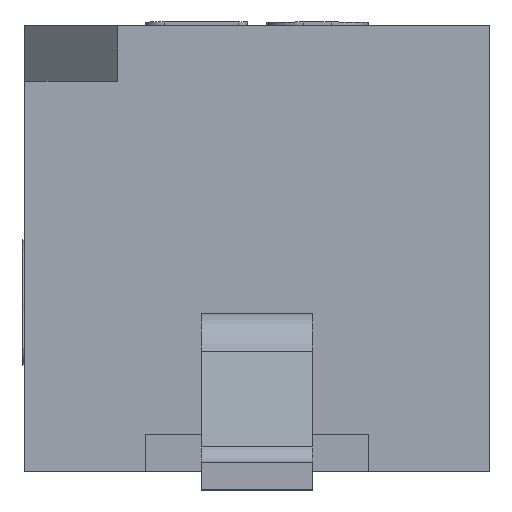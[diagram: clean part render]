
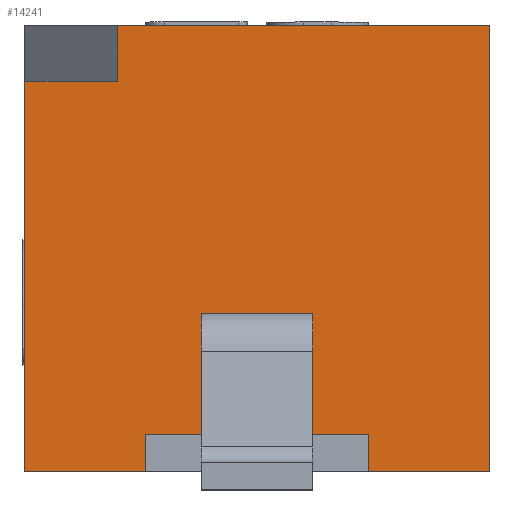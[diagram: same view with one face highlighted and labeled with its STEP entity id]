
A CAD part, left-side view. The second image highlights one B-rep face of the part: STEP entity #14241.
In plain terms, the highlighted planar face has unit normal (-1, 0, 0).
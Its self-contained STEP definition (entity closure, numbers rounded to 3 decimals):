
#236 = DIRECTION ( 'NONE',  ( 0., -1., 0. ) ) ;
#401 = EDGE_LOOP ( 'NONE', ( #8020, #10900, #5453, #619, #7299, #4335, #5161, #1065, #5641, #12709 ) ) ;
#413 = LINE ( 'NONE', #13815, #15129 ) ;
#475 = DIRECTION ( 'NONE',  ( 0., 1., 0. ) ) ;
#501 = ORIENTED_EDGE ( 'NONE', *, *, #15493, .F. ) ;
#542 = EDGE_CURVE ( 'NONE', #8300, #11214, #9500, .T. ) ;
#619 = ORIENTED_EDGE ( 'NONE', *, *, #1209, .F. ) ;
#986 = CARTESIAN_POINT ( 'NONE',  ( -2.7, 0.75, 2.1 ) ) ;
#1065 = ORIENTED_EDGE ( 'NONE', *, *, #6829, .T. ) ;
#1145 = VERTEX_POINT ( 'NONE', #5226 ) ;
#1209 = EDGE_CURVE ( 'NONE', #1145, #8184, #413, .T. ) ;
#1220 = CARTESIAN_POINT ( 'NONE',  ( -2.7, 0.6, 0. ) ) ;
#1313 = VECTOR ( 'NONE', #10813, 1000. ) ;
#1624 = DIRECTION ( 'NONE',  ( 0., -1., 0. ) ) ;
#1700 = PLANE ( 'NONE',  #4358 ) ;
#1844 = VERTEX_POINT ( 'NONE', #5986 ) ;
#2022 = EDGE_CURVE ( 'NONE', #11214, #3777, #10806, .T. ) ;
#2108 = VERTEX_POINT ( 'NONE', #7570 ) ;
#2312 = CARTESIAN_POINT ( 'NONE',  ( -2.7, 0.6, 0.2 ) ) ;
#2616 = VECTOR ( 'NONE', #10878, 1000. ) ;
#2911 = DIRECTION ( 'NONE',  ( 0., 0., -1. ) ) ;
#2935 = CARTESIAN_POINT ( 'NONE',  ( -2.7, -1.25, 2.4 ) ) ;
#3114 = FACE_BOUND ( 'NONE', #13051, .T. ) ;
#3731 = CARTESIAN_POINT ( 'NONE',  ( -2.7, -1.25, 2.4 ) ) ;
#3777 = VERTEX_POINT ( 'NONE', #8939 ) ;
#3877 = DIRECTION ( 'NONE',  ( 0., -1., 0. ) ) ;
#3988 = DIRECTION ( 'NONE',  ( 0., -1., 0. ) ) ;
#4122 = CARTESIAN_POINT ( 'NONE',  ( -2.7, 1.25, 2.4 ) ) ;
#4175 = FACE_OUTER_BOUND ( 'NONE', #401, .T. ) ;
#4335 = ORIENTED_EDGE ( 'NONE', *, *, #11293, .F. ) ;
#4358 = AXIS2_PLACEMENT_3D ( 'NONE', #11527, #5457, #475 ) ;
#4478 = EDGE_CURVE ( 'NONE', #2108, #6157, #9327, .T. ) ;
#4647 = CARTESIAN_POINT ( 'NONE',  ( -2.7, -0.6, 0.2 ) ) ;
#5161 = ORIENTED_EDGE ( 'NONE', *, *, #7092, .T. ) ;
#5176 = CARTESIAN_POINT ( 'NONE',  ( -2.7, 0.3, 0.85 ) ) ;
#5226 = CARTESIAN_POINT ( 'NONE',  ( -2.7, 0.75, 2.4 ) ) ;
#5273 = LINE ( 'NONE', #11327, #10133 ) ;
#5308 = LINE ( 'NONE', #9104, #8485 ) ;
#5329 = EDGE_CURVE ( 'NONE', #8184, #3777, #10164, .T. ) ;
#5453 = ORIENTED_EDGE ( 'NONE', *, *, #5329, .F. ) ;
#5457 = DIRECTION ( 'NONE',  ( 1., 0., 0. ) ) ;
#5568 = LINE ( 'NONE', #4122, #13024 ) ;
#5641 = ORIENTED_EDGE ( 'NONE', *, *, #4478, .F. ) ;
#5878 = LINE ( 'NONE', #8161, #1313 ) ;
#5986 = CARTESIAN_POINT ( 'NONE',  ( -2.7, 1.25, 0. ) ) ;
#6145 = VERTEX_POINT ( 'NONE', #6389 ) ;
#6157 = VERTEX_POINT ( 'NONE', #1220 ) ;
#6389 = CARTESIAN_POINT ( 'NONE',  ( -2.7, 0.3, 0.7 ) ) ;
#6491 = CARTESIAN_POINT ( 'NONE',  ( -2.7, 0.3, 0.85 ) ) ;
#6514 = CARTESIAN_POINT ( 'NONE',  ( -2.7, 0.3, 0.85 ) ) ;
#6642 = ORIENTED_EDGE ( 'NONE', *, *, #11736, .T. ) ;
#6829 = EDGE_CURVE ( 'NONE', #1844, #6157, #5273, .T. ) ;
#6894 = CARTESIAN_POINT ( 'NONE',  ( -2.7, -0.6, 0.2 ) ) ;
#7092 = EDGE_CURVE ( 'NONE', #10497, #1844, #5568, .T. ) ;
#7299 = ORIENTED_EDGE ( 'NONE', *, *, #14204, .F. ) ;
#7396 = DIRECTION ( 'NONE',  ( 0., 0., -1. ) ) ;
#7570 = CARTESIAN_POINT ( 'NONE',  ( -2.7, 0.6, 0.2 ) ) ;
#7595 = VECTOR ( 'NONE', #13901, 1000. ) ;
#7604 = CARTESIAN_POINT ( 'NONE',  ( -2.7, 1.25, 2.1 ) ) ;
#7675 = LINE ( 'NONE', #8971, #7595 ) ;
#8020 = ORIENTED_EDGE ( 'NONE', *, *, #542, .T. ) ;
#8096 = CARTESIAN_POINT ( 'NONE',  ( -2.7, -0.6, 0. ) ) ;
#8161 = CARTESIAN_POINT ( 'NONE',  ( -2.7, 0.3, 0.7 ) ) ;
#8184 = VERTEX_POINT ( 'NONE', #2935 ) ;
#8300 = VERTEX_POINT ( 'NONE', #6894 ) ;
#8485 = VECTOR ( 'NONE', #14173, 1000. ) ;
#8504 = VECTOR ( 'NONE', #13255, 1000. ) ;
#8675 = VECTOR ( 'NONE', #7396, 1000. ) ;
#8729 = CARTESIAN_POINT ( 'NONE',  ( -2.7, -0.3, 0.85 ) ) ;
#8939 = CARTESIAN_POINT ( 'NONE',  ( -2.7, -1.25, 0. ) ) ;
#8971 = CARTESIAN_POINT ( 'NONE',  ( -2.7, -0.3, 0.85 ) ) ;
#9104 = CARTESIAN_POINT ( 'NONE',  ( -2.7, 0.75, 2.1 ) ) ;
#9248 = EDGE_CURVE ( 'NONE', #2108, #8300, #15944, .T. ) ;
#9327 = LINE ( 'NONE', #11749, #14290 ) ;
#9362 = VERTEX_POINT ( 'NONE', #15268 ) ;
#9500 = LINE ( 'NONE', #4647, #8675 ) ;
#9763 = LINE ( 'NONE', #7604, #15353 ) ;
#10133 = VECTOR ( 'NONE', #3988, 1000. ) ;
#10164 = LINE ( 'NONE', #3731, #13957 ) ;
#10449 = VERTEX_POINT ( 'NONE', #8729 ) ;
#10497 = VERTEX_POINT ( 'NONE', #13599 ) ;
#10564 = CARTESIAN_POINT ( 'NONE',  ( -2.7, 1.25, 0. ) ) ;
#10582 = LINE ( 'NONE', #6491, #13470 ) ;
#10583 = EDGE_CURVE ( 'NONE', #10449, #9362, #7675, .T. ) ;
#10806 = LINE ( 'NONE', #10564, #8504 ) ;
#10813 = DIRECTION ( 'NONE',  ( 0., -1., 0. ) ) ;
#10878 = DIRECTION ( 'NONE',  ( 0., -1., 0. ) ) ;
#10900 = ORIENTED_EDGE ( 'NONE', *, *, #2022, .T. ) ;
#11214 = VERTEX_POINT ( 'NONE', #8096 ) ;
#11293 = EDGE_CURVE ( 'NONE', #10497, #13451, #9763, .T. ) ;
#11327 = CARTESIAN_POINT ( 'NONE',  ( -2.7, 1.25, 0. ) ) ;
#11404 = VECTOR ( 'NONE', #236, 1000. ) ;
#11527 = CARTESIAN_POINT ( 'NONE',  ( -2.7, 1.25, 2.4 ) ) ;
#11580 = DIRECTION ( 'NONE',  ( 0., 0., -1. ) ) ;
#11736 = EDGE_CURVE ( 'NONE', #13560, #10449, #12504, .T. ) ;
#11749 = CARTESIAN_POINT ( 'NONE',  ( -2.7, 0.6, 0.2 ) ) ;
#12504 = LINE ( 'NONE', #6514, #11404 ) ;
#12709 = ORIENTED_EDGE ( 'NONE', *, *, #9248, .T. ) ;
#12847 = DIRECTION ( 'NONE',  ( 0., 0., -1. ) ) ;
#13024 = VECTOR ( 'NONE', #2911, 1000. ) ;
#13051 = EDGE_LOOP ( 'NONE', ( #13214, #501, #6642, #14765 ) ) ;
#13214 = ORIENTED_EDGE ( 'NONE', *, *, #14036, .F. ) ;
#13255 = DIRECTION ( 'NONE',  ( 0., -1., 0. ) ) ;
#13451 = VERTEX_POINT ( 'NONE', #986 ) ;
#13470 = VECTOR ( 'NONE', #15490, 1000. ) ;
#13560 = VERTEX_POINT ( 'NONE', #5176 ) ;
#13599 = CARTESIAN_POINT ( 'NONE',  ( -2.7, 1.25, 2.1 ) ) ;
#13815 = CARTESIAN_POINT ( 'NONE',  ( -2.7, 1.25, 2.4 ) ) ;
#13901 = DIRECTION ( 'NONE',  ( 0., 0., -1. ) ) ;
#13957 = VECTOR ( 'NONE', #12847, 1000. ) ;
#14036 = EDGE_CURVE ( 'NONE', #6145, #9362, #5878, .T. ) ;
#14173 = DIRECTION ( 'NONE',  ( 0., 0., 1. ) ) ;
#14204 = EDGE_CURVE ( 'NONE', #13451, #1145, #5308, .T. ) ;
#14241 = ADVANCED_FACE ( 'NONE', ( #3114, #4175 ), #1700, .F. ) ;
#14290 = VECTOR ( 'NONE', #11580, 1000. ) ;
#14765 = ORIENTED_EDGE ( 'NONE', *, *, #10583, .T. ) ;
#15129 = VECTOR ( 'NONE', #1624, 1000. ) ;
#15268 = CARTESIAN_POINT ( 'NONE',  ( -2.7, -0.3, 0.7 ) ) ;
#15353 = VECTOR ( 'NONE', #3877, 1000. ) ;
#15490 = DIRECTION ( 'NONE',  ( 0., 0., -1. ) ) ;
#15493 = EDGE_CURVE ( 'NONE', #13560, #6145, #10582, .T. ) ;
#15944 = LINE ( 'NONE', #2312, #2616 ) ;
